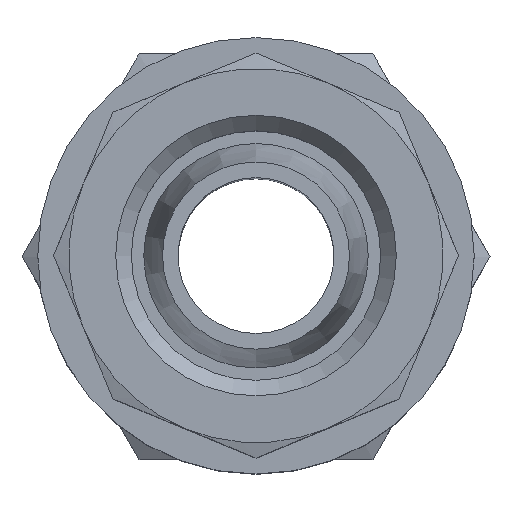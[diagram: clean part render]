
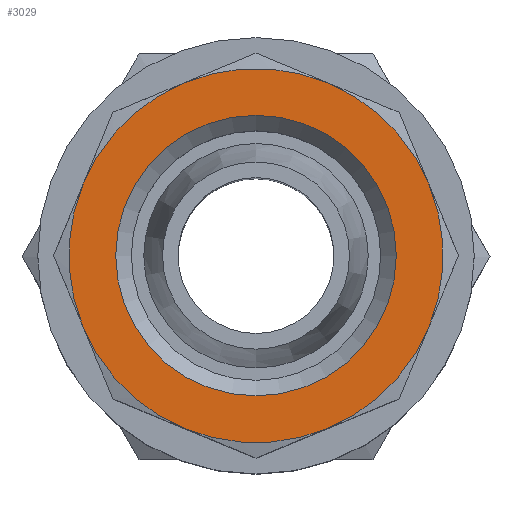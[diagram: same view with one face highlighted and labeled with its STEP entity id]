
A CAD part, top view. The second image highlights one B-rep face of the part: STEP entity #3029.
In plain terms, the highlighted planar face has unit normal (0, 0, 1) as drawn and (0, 1, 0) by its records, which use the part's own axes.
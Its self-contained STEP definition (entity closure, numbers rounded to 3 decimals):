
#1731=ORIENTED_EDGE('',*,*,#2063,.F.);
#1732=ORIENTED_EDGE('',*,*,#2064,.F.);
#1733=ORIENTED_EDGE('',*,*,#2065,.F.);
#1734=ORIENTED_EDGE('',*,*,#2066,.F.);
#1735=ORIENTED_EDGE('',*,*,#2067,.F.);
#1736=ORIENTED_EDGE('',*,*,#2068,.F.);
#1737=ORIENTED_EDGE('',*,*,#2069,.F.);
#1738=ORIENTED_EDGE('',*,*,#2070,.F.);
#1739=ORIENTED_EDGE('',*,*,#2062,.T.);
#1864=CIRCLE('',#2886,4.5);
#1865=CIRCLE('',#2888,6.);
#1866=CIRCLE('',#2889,6.);
#1867=CIRCLE('',#2890,6.);
#1868=CIRCLE('',#2891,6.);
#1869=CIRCLE('',#2892,6.);
#1870=CIRCLE('',#2893,6.);
#1871=CIRCLE('',#2894,6.);
#1872=CIRCLE('',#2895,6.);
#1943=VERTEX_POINT('',#3272);
#1944=VERTEX_POINT('',#3275);
#1945=VERTEX_POINT('',#3276);
#1946=VERTEX_POINT('',#3278);
#1947=VERTEX_POINT('',#3280);
#1948=VERTEX_POINT('',#3282);
#1949=VERTEX_POINT('',#3284);
#1950=VERTEX_POINT('',#3286);
#1951=VERTEX_POINT('',#3288);
#2062=EDGE_CURVE('',#1943,#1943,#1864,.T.);
#2063=EDGE_CURVE('',#1944,#1945,#1865,.T.);
#2064=EDGE_CURVE('',#1946,#1944,#1866,.T.);
#2065=EDGE_CURVE('',#1947,#1946,#1867,.T.);
#2066=EDGE_CURVE('',#1948,#1947,#1868,.T.);
#2067=EDGE_CURVE('',#1949,#1948,#1869,.T.);
#2068=EDGE_CURVE('',#1950,#1949,#1870,.T.);
#2069=EDGE_CURVE('',#1951,#1950,#1871,.T.);
#2070=EDGE_CURVE('',#1945,#1951,#1872,.T.);
#2194=EDGE_LOOP('',(#1731,#1732,#1733,#1734,#1735,#1736,#1737,#1738));
#2195=EDGE_LOOP('',(#1739));
#2310=FACE_BOUND('',#2194,.T.);
#2311=FACE_BOUND('',#2195,.T.);
#2624=DIRECTION('',(0.,-1.,0.));
#2625=DIRECTION('',(0.,0.,-4.5));
#2626=DIRECTION('',(0.,1.,0.));
#2627=DIRECTION('',(1.,0.,0.));
#2628=DIRECTION('',(0.,-1.,0.));
#2629=DIRECTION('',(0.,0.,6.));
#2630=DIRECTION('',(0.,-1.,0.));
#2631=DIRECTION('',(0.,0.,6.));
#2632=DIRECTION('',(0.,-1.,0.));
#2633=DIRECTION('',(0.,0.,6.));
#2634=DIRECTION('',(0.,-1.,0.));
#2635=DIRECTION('',(0.,0.,6.));
#2636=DIRECTION('',(0.,-1.,0.));
#2637=DIRECTION('',(0.,0.,6.));
#2638=DIRECTION('',(0.,-1.,0.));
#2639=DIRECTION('',(0.,0.,6.));
#2640=DIRECTION('',(0.,-1.,0.));
#2641=DIRECTION('',(0.,0.,6.));
#2642=DIRECTION('',(0.,-1.,0.));
#2643=DIRECTION('',(0.,0.,6.));
#2886=AXIS2_PLACEMENT_3D('',#3273,#2624,#2625);
#2887=AXIS2_PLACEMENT_3D('',#3274,#2626,#2627);
#2888=AXIS2_PLACEMENT_3D('',#3277,#2628,#2629);
#2889=AXIS2_PLACEMENT_3D('',#3279,#2630,#2631);
#2890=AXIS2_PLACEMENT_3D('',#3281,#2632,#2633);
#2891=AXIS2_PLACEMENT_3D('',#3283,#2634,#2635);
#2892=AXIS2_PLACEMENT_3D('',#3285,#2636,#2637);
#2893=AXIS2_PLACEMENT_3D('',#3287,#2638,#2639);
#2894=AXIS2_PLACEMENT_3D('',#3289,#2640,#2641);
#2895=AXIS2_PLACEMENT_3D('',#3290,#2642,#2643);
#2963=PLANE('',#2887);
#3029=ADVANCED_FACE('',(#2310,#2311),#2963,.T.);
#3272=CARTESIAN_POINT('',(26.989,26.095,-4.5));
#3273=CARTESIAN_POINT('',(26.989,26.095,0.));
#3274=CARTESIAN_POINT('',(29.285,26.095,5.543));
#3275=CARTESIAN_POINT('',(21.446,26.095,-2.296));
#3276=CARTESIAN_POINT('',(24.693,26.095,-5.543));
#3277=CARTESIAN_POINT('',(26.989,26.095,0.));
#3278=CARTESIAN_POINT('',(21.446,26.095,2.296));
#3279=CARTESIAN_POINT('',(26.989,26.095,0.));
#3280=CARTESIAN_POINT('',(24.693,26.095,5.543));
#3281=CARTESIAN_POINT('',(26.989,26.095,0.));
#3282=CARTESIAN_POINT('',(29.285,26.095,5.543));
#3283=CARTESIAN_POINT('',(26.989,26.095,0.));
#3284=CARTESIAN_POINT('',(32.532,26.095,2.296));
#3285=CARTESIAN_POINT('',(26.989,26.095,0.));
#3286=CARTESIAN_POINT('',(32.532,26.095,-2.296));
#3287=CARTESIAN_POINT('',(26.989,26.095,0.));
#3288=CARTESIAN_POINT('',(29.285,26.095,-5.543));
#3289=CARTESIAN_POINT('',(26.989,26.095,0.));
#3290=CARTESIAN_POINT('',(26.989,26.095,0.));
